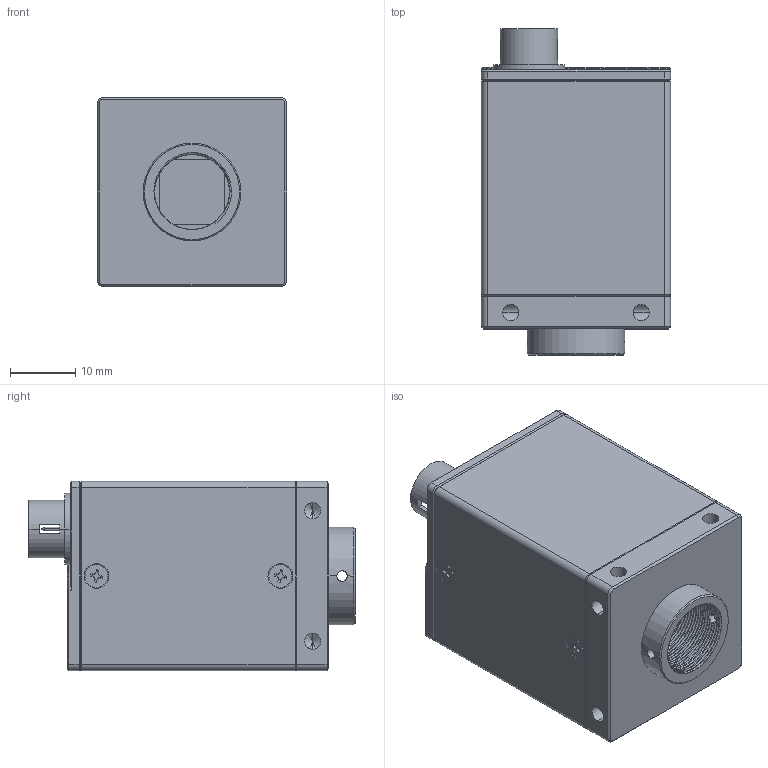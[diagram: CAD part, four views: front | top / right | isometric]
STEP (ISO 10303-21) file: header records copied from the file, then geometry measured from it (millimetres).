
FILE_DESCRIPTION (( 'STEP AP203' ), '1' );
FILE_NAME ('GEV-M12-V2.STEP', '2023-04-15T02:14:10', ( '' ), ( '' ), 'SwSTEP 2.0', 'SolidWorks 2022', '' );
FILE_SCHEMA (( 'CONFIG_CONTROL_DESIGN' ));
Products named in the file (1): GEV-M12-V2
Bounding box: 29 x 50 x 29 mm (x, y, z)
Volume: 17900.4 mm3; surface area: 24846.9 mm2
Topology: 31 solids, 31 shells, 1345 faces, 3497 edges, 2218 vertices
Faces by surface type: plane 526, cylinder 516, cone 250, bspline 51, torus 2
Entity records: 51601 total; most frequent: CARTESIAN_POINT 19765, ORIENTED_EDGE 6902, DIRECTION 6209, EDGE_CURVE 3451, AXIS2_PLACEMENT_3D 2245, VERTEX_POINT 2218, VECTOR 1719, LINE 1719
